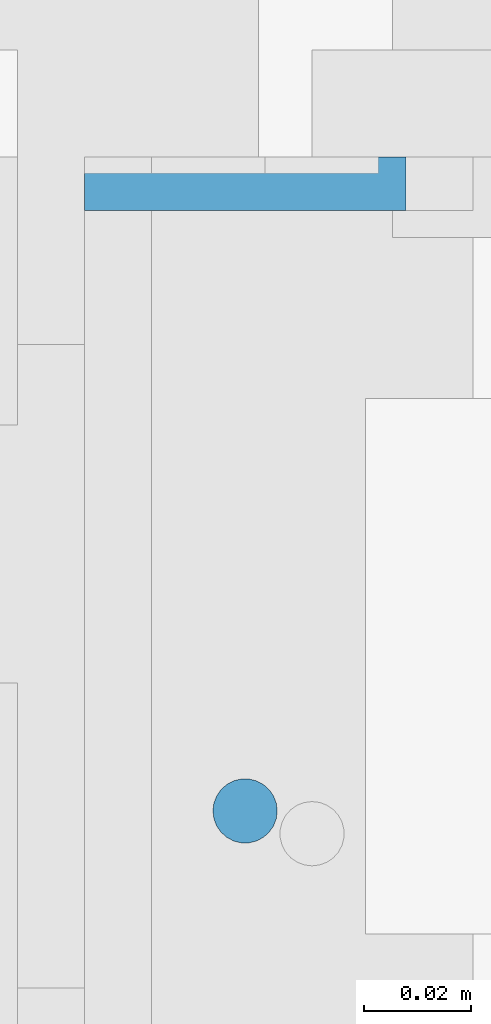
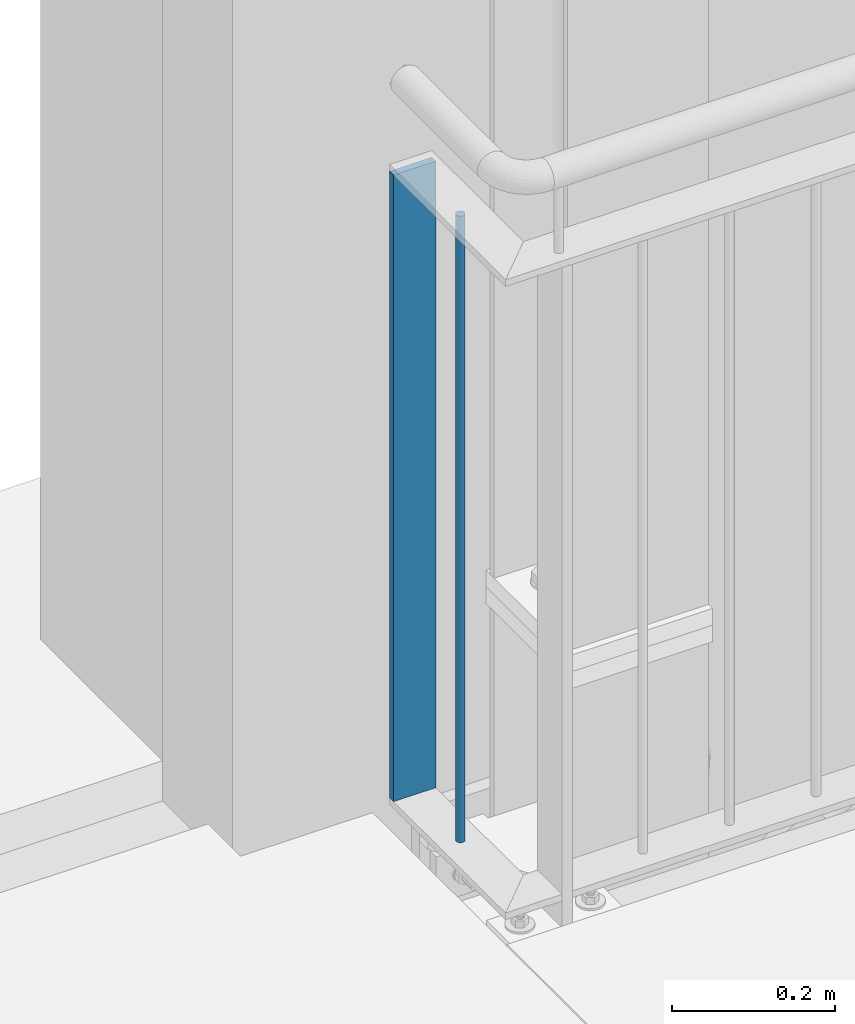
# One storey, part 66 of 825: 2 columns.
"""IFC2X3 building model written with IfcOpenShell, lengths in millimetres."""

import ifcopenshell
import ifcopenshell.guid

model = None  # the IFC model being written
_history = None  # IfcOwnerHistory: only IFC2X3 demands one
_inside = {}  # id of a spatial element -> (the spatial element, [elements in it])
_under = {}  # id of a project, library or spatial element -> (it, [spatial elements below it])
_declared = {}  # id of a project -> (the project, [libraries it declares])
_typed = {}  # id of a type object -> (the type object, [elements of that type])
_made_of = {}  # id of a material, layer set ... -> (it, [elements and type objects made of it])


def new_model(schema):
    """Start an empty IFC model of exactly this schema.

    Asked for "IFC4X3", IfcOpenShell would pick the latest addendum, in which some entities
    have other attributes; the version numbers below select the first issue.
    IFC2X3 requires an IfcOwnerHistory on every rooted entity: one is made here for all.
    """
    global model, _history
    if schema == "IFC4X3":
        model = ifcopenshell.file(schema_version=(4, 3, 0, 0))
    else:
        model = ifcopenshell.file(schema=schema)
    _inside.clear()
    _under.clear()
    _declared.clear()
    _typed.clear()
    _made_of.clear()
    _history = None
    if model.schema == "IFC2X3":
        org = make("IfcOrganization", Name="unknown")
        user = make(
            "IfcPersonAndOrganization",
            ThePerson=make("IfcPerson", FamilyName="unknown"),
            TheOrganization=org,
        )
        app = make(
            "IfcApplication",
            ApplicationDeveloper=org,
            Version="unknown",
            ApplicationFullName="unknown",
            ApplicationIdentifier="unknown",
        )
        _history = make(
            "IfcOwnerHistory",
            OwningUser=user,
            OwningApplication=app,
            ChangeAction="ADDED",
            CreationDate=0,
        )
    return model


def make(cls, **values):
    """One entity of the class cls with the attributes given. An attribute that is None is left unset."""
    return model.create_entity(
        cls, **{name: value for name, value in values.items() if value is not None}
    )


def entity(cls, *values):
    """Any entity or typed value of the class cls, its attributes in the order of the schema. None: left unset."""
    e = model.create_entity(cls)
    for i, value in enumerate(values):
        if value is not None:
            e[i] = value
    return e


def rooted(cls, **values):
    """An entity with a GlobalId (a new one), such as an element, a storey or a relation."""
    return make(cls, GlobalId=ifcopenshell.guid.new(), OwnerHistory=_history, **values)


def si_unit(unit_type, name, prefix=None):
    """IfcSIUnit, for example si_unit("LENGTHUNIT", "METRE", prefix="MILLI")."""
    return make("IfcSIUnit", UnitType=unit_type, Prefix=prefix, Name=name)


def converted_unit(unit_type, name, factor, base, dimensions=None, offset=None):
    """IfcConversionBasedUnit, such as the inch: factor (a typed value) times the base unit."""
    return make(
        "IfcConversionBasedUnit"
        if offset is None
        else "IfcConversionBasedUnitWithOffset",
        ConversionOffset=offset,
        Dimensions=None
        if dimensions is None
        else entity("IfcDimensionalExponents", *dimensions),
        UnitType=unit_type,
        Name=name,
        ConversionFactor=make(
            "IfcMeasureWithUnit", ValueComponent=factor, UnitComponent=base
        ),
    )


def assignment(units):
    """IfcUnitAssignment: the units of a project."""
    return None if units is None else make("IfcUnitAssignment", Units=units)


def point(xyz):
    """IfcCartesianPoint."""
    return None if xyz is None else make("IfcCartesianPoint", Coordinates=xyz)


def direction(xyz):
    """IfcDirection."""
    return None if xyz is None else make("IfcDirection", DirectionRatios=xyz)


def frame(location, z_axis=None, x_axis=None):
    """IfcAxis2Placement3D, a coordinate frame: its origin and axes. An axis left out is left unset."""
    return make(
        "IfcAxis2Placement3D",
        Location=point(location),
        Axis=direction(z_axis),
        RefDirection=direction(x_axis),
    )


def frame_2d(location, x_axis=None):
    """IfcAxis2Placement2D, a coordinate frame in the plane: its origin and x axis."""
    return make(
        "IfcAxis2Placement2D", Location=point(location), RefDirection=direction(x_axis)
    )


def origin():
    """The frame at (0, 0, 0) with its axes left unset."""
    return frame((0.0, 0.0, 0.0))


def origin_with_axes():
    """The frame at (0, 0, 0) with the z axis (0, 0, 1) and the x axis (1, 0, 0) written out."""
    return frame((0.0, 0.0, 0.0), z_axis=(0.0, 0.0, 1.0), x_axis=(1.0, 0.0, 0.0))


def origin_2d():
    """The frame at (0, 0) in the plane with its x axis left unset."""
    return frame_2d((0.0, 0.0))


def place(relative_to, where):
    """IfcLocalPlacement: puts the frame where relative to a parent placement (None: the world)."""
    return make(
        "IfcLocalPlacement", PlacementRelTo=relative_to, RelativePlacement=where
    )


def context(
    kind, dimensions, precision=None, world=None, true_north=None, identifier=None
):
    """IfcGeometricRepresentationContext, for example the 3D "Model" context."""
    return make(
        "IfcGeometricRepresentationContext",
        ContextIdentifier=identifier,
        ContextType=kind,
        CoordinateSpaceDimension=dimensions,
        Precision=precision,
        WorldCoordinateSystem=world,
        TrueNorth=true_north,
    )


def project(units=None, contexts=None):
    """IfcProject with its units and contexts."""
    return rooted(
        "IfcProject",
        Name="project",
        RepresentationContexts=contexts,
        UnitsInContext=assignment(units),
    )


def spatial(cls, under=None, at=None, **own):
    """A site, building, storey or space (cls), placed at a placement, below another one or the project."""
    s = rooted(cls, ObjectPlacement=at, **own)
    if under is not None:
        _under.setdefault(under.id(), (under, []))[1].append(s)
    return s


def profile(cls, at=None, kind="AREA", **sizes):
    """A parametric profile (cls). Its sizes go by their IFC names, for example OverallWidth=200.0."""
    return make(cls, ProfileType=kind, Position=at, **sizes)


def rectangle(**sizes):
    """IfcRectangleProfileDef."""
    return profile("IfcRectangleProfileDef", **sizes)


def circle(**sizes):
    """IfcCircleProfileDef."""
    return profile("IfcCircleProfileDef", **sizes)


def extrude(swept, where, along, depth):
    """IfcExtrudedAreaSolid: the profile swept, set in the frame where, extruded along a direction by depth."""
    return make(
        "IfcExtrudedAreaSolid",
        SweptArea=swept,
        Position=where,
        ExtrudedDirection=direction(along),
        Depth=depth,
    )


def clip(a, b, op="DIFFERENCE"):
    """IfcBooleanClippingResult: the solid a cut by the half space b."""
    return make(
        "IfcBooleanClippingResult", Operator=op, FirstOperand=a, SecondOperand=b
    )


def halfspace(plane, agree):
    """IfcHalfSpaceSolid: all space on one side of the plane z = 0 of the frame plane."""
    return make(
        "IfcHalfSpaceSolid",
        BaseSurface=make("IfcPlane", Position=plane),
        AgreementFlag=agree,
    )


def shape(context_of_items, identifier, shape_type, items):
    """IfcShapeRepresentation: the items that make up one representation, for example the "Body"."""
    return make(
        "IfcShapeRepresentation",
        ContextOfItems=context_of_items,
        RepresentationIdentifier=identifier,
        RepresentationType=shape_type,
        Items=items,
    )


def material(Name=None, Category=None):
    """IfcMaterial."""
    return make("IfcMaterial", Name=Name, Category=Category)


def made_of(thing, what):
    """Note that an element or type object is made of a material, layer set ...; save() writes the relation."""
    if what is not None:
        _made_of.setdefault(what.id(), (what, []))[1].append(thing)
    return thing


def element(
    cls,
    number,
    at=None,
    inside=None,
    cuts=None,
    type_object=None,
    material=None,
    context=None,
    identifier="Body",
    shape_type=None,
    held_by="IfcProductDefinitionShape",
    body=None,
    shapes=None,
    **own,
):
    """One element of the class cls, such as IfcWall. Its Tag is "e" and its number.

    at: its placement. inside: the storey or other place that contains it. cuts: it is an
    opening in that element (IfcRelVoidsElement). A single representation is given by context,
    identifier, shape_type and body (its items); several are given by shapes. held_by: the class
    of the entity that holds the representations. save() writes the other relations.
    """
    e = rooted(cls, Tag="e%d" % number, ObjectPlacement=at, **own)
    if body is not None:
        shapes = [shape(context, identifier, shape_type, body)]
    if shapes is not None:
        e.Representation = make(held_by, Representations=shapes)
    if inside is not None:
        _inside.setdefault(inside.id(), (inside, []))[1].append(e)
    if cuts is not None:
        rooted(
            "IfcRelVoidsElement", RelatingBuildingElement=cuts, RelatedOpeningElement=e
        )
    if type_object is not None:
        _typed.setdefault(type_object.id(), (type_object, []))[1].append(e)
    return made_of(e, material)


def aggregate(whole, parts):
    """IfcRelAggregates: a whole, such as a stair, and the parts it consists of."""
    return rooted("IfcRelAggregates", RelatingObject=whole, RelatedObjects=parts)


def save(model, path):
    """Write the relations noted so far, then the file.

    IfcRelAggregates (storeys below a building ...), IfcRelContainedInSpatialStructure (elements
    in a storey), IfcRelDefinesByType, IfcRelAssociatesMaterial and IfcRelDeclares: one each for
    every whole, place, type object, material and project.
    """
    for whole, parts in _under.values():
        aggregate(whole, parts)
    for where, things in _inside.values():
        rooted(
            "IfcRelContainedInSpatialStructure",
            RelatedElements=things,
            RelatingStructure=where,
        )
    for kind, things in _typed.values():
        rooted("IfcRelDefinesByType", RelatedObjects=things, RelatingType=kind)
    for what, things in _made_of.values():
        rooted("IfcRelAssociatesMaterial", RelatedObjects=things, RelatingMaterial=what)
    for by, libraries in _declared.values():
        rooted("IfcRelDeclares", RelatingContext=by, RelatedDefinitions=libraries)
    model.write(path)


model = new_model("IFC2X3")

# Units and contexts
model_context = context("Model", 3, precision=1e-09, world=origin_with_axes())
ifc_project = project(units=[si_unit("LENGTHUNIT", "METRE", prefix="MILLI"), si_unit("AREAUNIT", "SQUARE_METRE"), si_unit("VOLUMEUNIT", "CUBIC_METRE"), converted_unit("PLANEANGLEUNIT", "DEGREE", entity("IfcPlaneAngleMeasure", 0.01745329), si_unit("PLANEANGLEUNIT", "RADIAN"), dimensions=[0, 0, 0, 0, 0, 0, 0])], contexts=[model_context])

# Site, building, storey
site_placement = place(None, origin_with_axes())
site = spatial("IfcSite", under=ifc_project, at=site_placement, Name="Cnopf'sche Kinderklinik", CompositionType="ELEMENT")
building_placement = place(site_placement, origin_with_axes())
building = spatial("IfcBuilding", under=site, at=building_placement, Name="Struktur 1", CompositionType="ELEMENT")
storey_placement = place(building_placement, origin_with_axes())
storey = spatial("IfcBuildingStorey", under=building, at=storey_placement, Name="Default Storey", CompositionType="ELEMENT", Elevation=0.0)

# Columns
ifc_material = material(Name="S235JR")
column_1_placement = place(None, frame((4644.213402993, 7606.736971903, 7390.0), z_axis=(0.0, 0.0, -1.0), x_axis=(0.0, -1.0, 0.0)))
element("IfcColumn", 1, at=column_1_placement, inside=storey, material=ifc_material, Name="Railing_Kneerail_Landing#0", ObjectType="Railing_Kneerail_Landing#0", context=model_context, shape_type="SweptSolid", body=[
    extrude(rectangle(XDim=10.0, YDim=60.0, at=origin_2d()), origin(), (0.0, 0.0, -1.0), 938.8),
])
column_2_placement = place(None, frame((4644.213402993, 7489.736971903, 8342.285281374), z_axis=(0.0, 0.0, 1.0), x_axis=(1.0, 0.0, 0.0)))
element("IfcColumn", 2, at=column_2_placement, inside=storey, material=ifc_material, Name="Railing_Picket_Landing#0", ObjectType="Railing_Picket_Landing#0", context=model_context, shape_type="Clipping", body=[
    clip(clip(extrude(circle(Radius=6.0, at=origin_2d()), origin(), (0.0, 0.0, -1.0), 965.770562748), halfspace(frame((-4644.213402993, -7489.736971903, -13.486281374), z_axis=(0.0, 0.0, -1.0), x_axis=(-1.0, 0.0, 0.0)), True)), halfspace(frame((-4644.213402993, -7489.736971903, -952.284281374), z_axis=(0.0, 0.0, 1.0), x_axis=(1.0, 0.0, 0.0)), True)),
])

save(model, "model.ifc")
